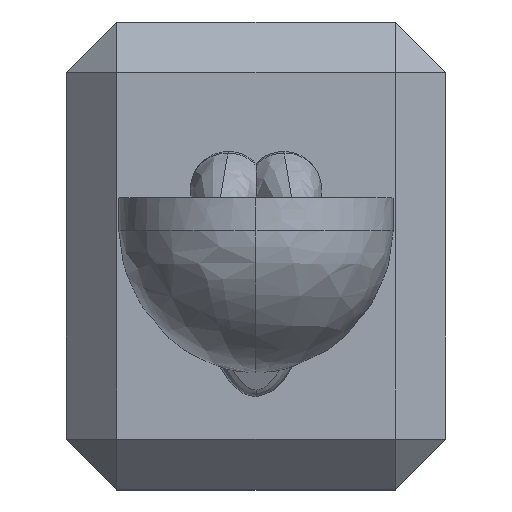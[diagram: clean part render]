
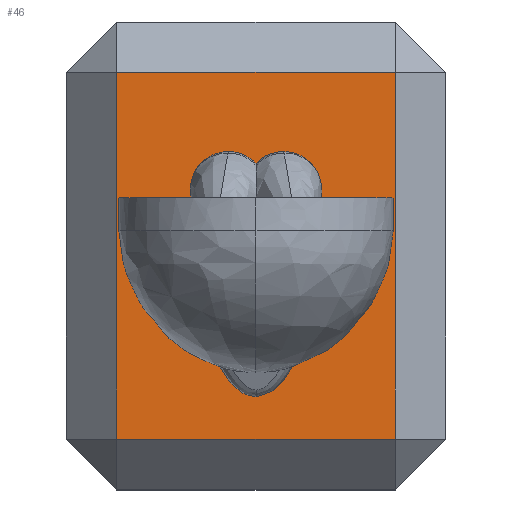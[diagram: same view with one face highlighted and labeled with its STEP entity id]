
A CAD part, top view. The second image highlights one B-rep face of the part: STEP entity #46.
In plain terms, the highlighted planar face has unit normal (0, 0, 1).
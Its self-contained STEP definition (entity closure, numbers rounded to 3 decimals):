
#18=FACE_BOUND('',#193,.T.);
#19=FACE_BOUND('',#194,.T.);
#46=ADVANCED_FACE('',(#117,#18,#19),#1062,.T.);
#117=FACE_OUTER_BOUND('',#192,.T.);
#192=EDGE_LOOP('',(#355,#356,#357,#358));
#193=EDGE_LOOP('',(#359,#360,#361));
#194=EDGE_LOOP('',(#362,#363));
#355=ORIENTED_EDGE('',*,*,#634,.T.);
#356=ORIENTED_EDGE('',*,*,#637,.T.);
#357=ORIENTED_EDGE('',*,*,#635,.T.);
#358=ORIENTED_EDGE('',*,*,#636,.T.);
#359=ORIENTED_EDGE('',*,*,#675,.T.);
#360=ORIENTED_EDGE('',*,*,#677,.T.);
#361=ORIENTED_EDGE('',*,*,#676,.T.);
#362=ORIENTED_EDGE('',*,*,#684,.T.);
#363=ORIENTED_EDGE('',*,*,#728,.T.);
#634=EDGE_CURVE('',#945,#946,#840,.T.);
#635=EDGE_CURVE('',#947,#948,#841,.T.);
#636=EDGE_CURVE('',#948,#945,#842,.T.);
#637=EDGE_CURVE('',#946,#947,#843,.T.);
#675=EDGE_CURVE('',#957,#958,#756,.T.);
#676=EDGE_CURVE('',#959,#957,#757,.T.);
#677=EDGE_CURVE('',#958,#959,#758,.T.);
#684=EDGE_CURVE('',#963,#990,#764,.T.);
#728=EDGE_CURVE('',#990,#963,#789,.T.);
#756=(
BOUNDED_CURVE()
B_SPLINE_CURVE(2,(#3267,#3268,#3269,#3270,#3271),.UNSPECIFIED.,.F.,.F.)
B_SPLINE_CURVE_WITH_KNOTS((3,2,3),(-1.885,-1.527,
-1.169),.UNSPECIFIED.)
CURVE()
GEOMETRIC_REPRESENTATION_ITEM()
RATIONAL_B_SPLINE_CURVE((1.,0.827,1.,0.827,1.))
REPRESENTATION_ITEM('')
);
#757=(
BOUNDED_CURVE()
B_SPLINE_CURVE(2,(#3272,#3273,#3274,#3275,#3276),.UNSPECIFIED.,.F.,.F.)
B_SPLINE_CURVE_WITH_KNOTS((3,2,3),(-0.716,-0.358,
0.),.UNSPECIFIED.)
CURVE()
GEOMETRIC_REPRESENTATION_ITEM()
RATIONAL_B_SPLINE_CURVE((1.,0.827,1.,0.827,1.))
REPRESENTATION_ITEM('')
);
#758=(
BOUNDED_CURVE()
B_SPLINE_CURVE(2,(#3277,#3278,#3279,#3280,#3281,#3282,#3283,#3284,#3285),
 .UNSPECIFIED.,.F.,.F.)
B_SPLINE_CURVE_WITH_KNOTS((3,2,2,2,3),(-1.659,-1.301,
-0.942,-0.584,-0.226),.UNSPECIFIED.)
CURVE()
GEOMETRIC_REPRESENTATION_ITEM()
RATIONAL_B_SPLINE_CURVE((1.,0.827,1.,0.827,1.,0.827,
1.,0.827,1.))
REPRESENTATION_ITEM('')
);
#764=(
BOUNDED_CURVE()
B_SPLINE_CURVE(2,(#3322,#3323,#3324,#3325,#3326),.UNSPECIFIED.,.F.,.F.)
B_SPLINE_CURVE_WITH_KNOTS((3,2,3),(-1.885,-1.414,
-0.942),.UNSPECIFIED.)
CURVE()
GEOMETRIC_REPRESENTATION_ITEM()
RATIONAL_B_SPLINE_CURVE((1.,0.707,1.,0.707,1.))
REPRESENTATION_ITEM('')
);
#789=(
BOUNDED_CURVE()
B_SPLINE_CURVE(2,(#3833,#3834,#3835,#3836,#3837),.UNSPECIFIED.,.F.,.F.)
B_SPLINE_CURVE_WITH_KNOTS((3,2,3),(-0.942,-0.471,
0.),.UNSPECIFIED.)
CURVE()
GEOMETRIC_REPRESENTATION_ITEM()
RATIONAL_B_SPLINE_CURVE((1.,0.707,1.,0.707,1.))
REPRESENTATION_ITEM('')
);
#840=B_SPLINE_CURVE_WITH_KNOTS('',1,(#3123,#3124),.UNSPECIFIED.,.F.,.F.,
(2,2),(0.4,3.3),.UNSPECIFIED.);
#841=B_SPLINE_CURVE_WITH_KNOTS('',1,(#3125,#3126),.UNSPECIFIED.,.F.,.F.,
(2,2),(0.4,3.3),.UNSPECIFIED.);
#842=B_SPLINE_CURVE_WITH_KNOTS('',1,(#3127,#3128),.UNSPECIFIED.,.F.,.F.,
(2,2),(0.4,2.6),.UNSPECIFIED.);
#843=B_SPLINE_CURVE_WITH_KNOTS('',1,(#3129,#3130),.UNSPECIFIED.,.F.,.F.,
(2,2),(0.4,2.6),.UNSPECIFIED.);
#945=VERTEX_POINT('',#2587);
#946=VERTEX_POINT('',#2588);
#947=VERTEX_POINT('',#2589);
#948=VERTEX_POINT('',#2590);
#957=VERTEX_POINT('',#2599);
#958=VERTEX_POINT('',#2600);
#959=VERTEX_POINT('',#2601);
#963=VERTEX_POINT('',#2605);
#990=VERTEX_POINT('',#2632);
#1062=PLANE('',#1184);
#1184=AXIS2_PLACEMENT_3D('',#2421,#1222,$);
#1222=DIRECTION('',(0.,0.,1.));
#2421=CARTESIAN_POINT('',(-1.5,-1.85,2.));
#2587=CARTESIAN_POINT('',(1.1,-1.45,2.));
#2588=CARTESIAN_POINT('',(1.1,1.45,2.));
#2589=CARTESIAN_POINT('',(-1.1,1.45,2.));
#2590=CARTESIAN_POINT('',(-1.1,-1.45,2.));
#2599=CARTESIAN_POINT('',(-0.519,0.522,2.));
#2600=CARTESIAN_POINT('',(0.,0.727,2.));
#2601=CARTESIAN_POINT('',(0.,0.317,2.));
#2605=CARTESIAN_POINT('',(-0.3,-0.407,2.));
#2632=CARTESIAN_POINT('',(0.3,-0.407,2.));
#3123=CARTESIAN_POINT('',(1.1,-1.45,2.));
#3124=CARTESIAN_POINT('',(1.1,1.45,2.));
#3125=CARTESIAN_POINT('',(-1.1,1.45,2.));
#3126=CARTESIAN_POINT('',(-1.1,-1.45,2.));
#3127=CARTESIAN_POINT('',(-1.1,-1.45,2.));
#3128=CARTESIAN_POINT('',(1.1,-1.45,2.));
#3129=CARTESIAN_POINT('',(1.1,1.45,2.));
#3130=CARTESIAN_POINT('',(-1.1,1.45,2.));
#3267=CARTESIAN_POINT('',(-0.519,0.522,2.));
#3268=CARTESIAN_POINT('',(-0.519,0.726,2.));
#3269=CARTESIAN_POINT('',(-0.329,0.801,2.));
#3270=CARTESIAN_POINT('',(-0.139,0.876,2.));
#3271=CARTESIAN_POINT('',(0.,0.727,2.));
#3272=CARTESIAN_POINT('',(0.,0.317,2.));
#3273=CARTESIAN_POINT('',(-0.139,0.168,2.));
#3274=CARTESIAN_POINT('',(-0.329,0.243,2.));
#3275=CARTESIAN_POINT('',(-0.519,0.318,2.));
#3276=CARTESIAN_POINT('',(-0.519,0.522,2.));
#3277=CARTESIAN_POINT('',(0.,0.727,2.));
#3278=CARTESIAN_POINT('',(0.139,0.876,2.));
#3279=CARTESIAN_POINT('',(0.329,0.801,2.));
#3280=CARTESIAN_POINT('',(0.519,0.726,2.));
#3281=CARTESIAN_POINT('',(0.519,0.522,2.));
#3282=CARTESIAN_POINT('',(0.519,0.318,2.));
#3283=CARTESIAN_POINT('',(0.329,0.243,2.));
#3284=CARTESIAN_POINT('',(0.139,0.168,2.));
#3285=CARTESIAN_POINT('',(0.,0.317,2.));
#3322=CARTESIAN_POINT('',(-0.3,-0.407,2.));
#3323=CARTESIAN_POINT('',(-0.3,-0.107,2.));
#3324=CARTESIAN_POINT('',(0.,-0.107,2.));
#3325=CARTESIAN_POINT('',(0.3,-0.107,2.));
#3326=CARTESIAN_POINT('',(0.3,-0.407,2.));
#3833=CARTESIAN_POINT('',(0.3,-0.407,2.));
#3834=CARTESIAN_POINT('',(0.3,-0.707,2.));
#3835=CARTESIAN_POINT('',(0.,-0.707,2.));
#3836=CARTESIAN_POINT('',(-0.3,-0.707,2.));
#3837=CARTESIAN_POINT('',(-0.3,-0.407,2.));
